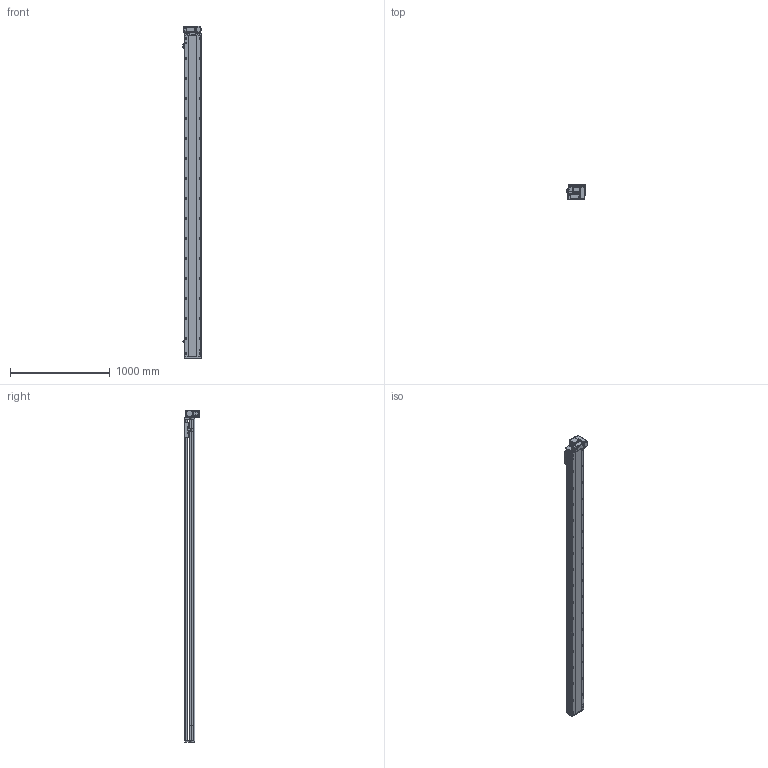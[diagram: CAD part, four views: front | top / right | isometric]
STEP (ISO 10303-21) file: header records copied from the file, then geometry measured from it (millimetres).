
FILE_DESCRIPTION (( 'STEP AP214' ), '1' );
FILE_NAME ('RTB17S-XX-2950-RM-M40-C4.STEP', '2025-12-11T08:34:58', ( '' ), ( '' ), 'SwSTEP 2.0', 'SolidWorks 2018', '' );
FILE_SCHEMA (( 'AUTOMOTIVE_DESIGN' ));
Length unit declared in the file: millimetre
Products named in the file (14): RTB17S-L-001耜醱啣^RTB17S-XX-XX-RM-M40-C4; RTB14-L-018P^RTB17S-RM-々湍釱蚾饜-400W_RTB17S-XX-XX-RM-M40-C4; RTB17S-L-004佪裝蹟譫蟀諉釱^RTB17S-XX-XX-RM-M40-C4; OMRON EE-SX672 传感器^RTB17S-XX-XX-RM-M40-C4; RTB17S-RM-々湍釱蚾饜-400W^RTB17S-XX-XX-RM-M40-C4; 400W侜督萇儂^RTB17S-XX-XX-RM-M40-C4; RTB14-L-017P^RTB17S-RM-々湍釱蚾饜-400W_RTB17S-XX-XX-RM-M40-C4; RTH13-BL-012覜茼え俋离^RTB17S-XX-XX-RM-M40-C4; RTB17S-L-007奻裔^RTB17S-XX-XX-RM-M40-C4; RTB14-L-005P--轴承塑胶压盖^RTB17S-RM-皮带座装配-400W_RTB17S-XX-XX-RM-M40-C4; RTB17-R-011菁釱^RTB17S-XX-XX-RM-M40-C4; RTB17S-XX-2950-RM-M40-C4; RTB14-L-008-M20--萇儂啣^RTB17S-RM-々湍釱蚾饜-400W_RTB17S-XX-XX-RM-M40-C4; RTB17S-L-014-T20--々湍釱^RTB17S-RM-々湍釱蚾饜-400W_RTB17S-XX-XX-RM-M40-C4
Assembly tree (16 placements, depth 3):
  RTB17S-XX-2950-RM-M40-C4
    RTB17-R-011菁釱^RTB17S-XX-XX-RM-M40-C4
    RTB17S-L-007奻裔^RTB17S-XX-XX-RM-M40-C4
    OMRON EE-SX672 传感器^RTB17S-XX-XX-RM-M40-C4  x3
    RTB17S-L-001耜醱啣^RTB17S-XX-XX-RM-M40-C4
    400W侜督萇儂^RTB17S-XX-XX-RM-M40-C4
    RTB17S-L-004佪裝蹟譫蟀諉釱^RTB17S-XX-XX-RM-M40-C4
    RTH13-BL-012覜茼え俋离^RTB17S-XX-XX-RM-M40-C4
    RTB17S-RM-々湍釱蚾饜-400W^RTB17S-XX-XX-RM-M40-C4
      RTB17S-L-014-T20--々湍釱^RTB17S-RM-々湍釱蚾饜-400W_RTB17S-XX-XX-RM-M40-C4
      RTB14-L-005P--轴承塑胶压盖^RTB17S-RM-皮带座装配-400W_RTB17S-XX-XX-RM-M40-C4
      RTB14-L-008-M20--萇儂啣^RTB17S-RM-々湍釱蚾饜-400W_RTB17S-XX-XX-RM-M40-C4
      RTB14-L-017P^RTB17S-RM-々湍釱蚾饜-400W_RTB17S-XX-XX-RM-M40-C4  x2
      RTB14-L-018P^RTB17S-RM-々湍釱蚾饜-400W_RTB17S-XX-XX-RM-M40-C4
Bounding box: 183.5 x 156.5 x 3322.5 mm (x, y, z)
Volume: 28276429.7 mm3; surface area: 3232183 mm2
Topology: 15 solids, 15 shells, 2365 faces, 6627 edges, 4329 vertices
Faces by surface type: plane 1088, cylinder 829, bspline 301, cone 139, torus 8
Entity records: 70313 total; most frequent: CARTESIAN_POINT 20032, ORIENTED_EDGE 10098, DIRECTION 9296, EDGE_CURVE 5049, VERTEX_POINT 3317, AXIS2_PLACEMENT_3D 3247, VECTOR 2802, LINE 2802
